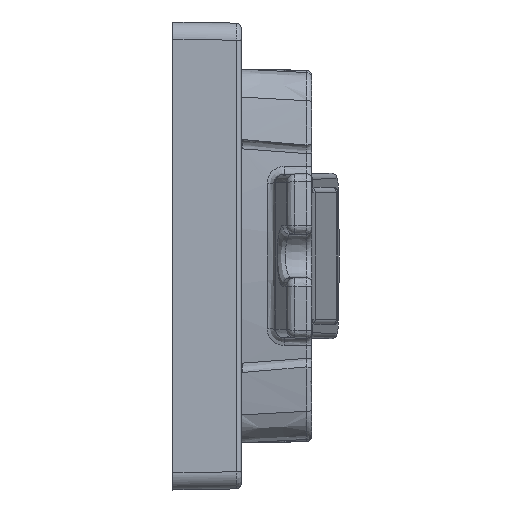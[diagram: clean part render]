
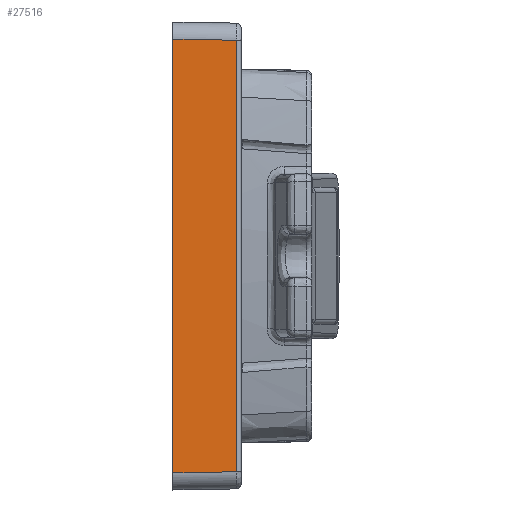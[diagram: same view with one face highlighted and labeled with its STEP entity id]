
A CAD part, left-side view. The second image highlights one B-rep face of the part: STEP entity #27516.
In plain terms, the highlighted planar face has unit normal (-1, -0.018, 0).
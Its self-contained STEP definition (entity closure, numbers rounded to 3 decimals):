
#2924=CARTESIAN_POINT('',(-80.,4.,-12.65));
#3050=CARTESIAN_POINT('',(-80.,4.,12.65));
#3058=DIRECTION('',(0.,0.,1.));
#3059=VECTOR('',#3058,25.3);
#3060=CARTESIAN_POINT('',(-80.,4.,-12.65));
#3061=LINE('',#3060,#3059);
#4831=CARTESIAN_POINT('',(-79.935,0.295,
-12.585));
#4843=DIRECTION('',(0.,0.,-1.));
#4844=VECTOR('',#4843,25.171);
#4845=CARTESIAN_POINT('',(-79.935,0.295,
12.585));
#4846=LINE('',#4845,#4844);
#4847=DIRECTION('',(0.017,-1.,0.017));
#4848=VECTOR('',#4847,3.706);
#4849=CARTESIAN_POINT('',(-80.,4.,-12.65));
#4850=LINE('',#4849,#4848);
#4851=DIRECTION('',(0.017,-1.,-0.017));
#4852=VECTOR('',#4851,3.706);
#4853=CARTESIAN_POINT('',(-80.,4.,12.65));
#4854=LINE('',#4853,#4852);
#21993=VERTEX_POINT('',#2924);
#21994=VERTEX_POINT('',#3050);
#22015=VERTEX_POINT('',#4831);
#22018=CARTESIAN_POINT('',(-79.935,0.295,
12.585));
#22019=VERTEX_POINT('',#22018);
#27503=CARTESIAN_POINT('',(-80.,4.,-15.25));
#27504=DIRECTION('',(-1.,-0.017,0.));
#27505=DIRECTION('',(0.,0.,1.));
#27506=AXIS2_PLACEMENT_3D('',#27503,#27504,#27505);
#27507=PLANE('',#27506);
#27509=ORIENTED_EDGE('',*,*,#27508,.T.);
#27510=ORIENTED_EDGE('',*,*,#27498,.F.);
#27511=ORIENTED_EDGE('',*,*,#23729,.T.);
#27513=ORIENTED_EDGE('',*,*,#27512,.T.);
#27514=EDGE_LOOP('',(#27509,#27510,#27511,#27513));
#27515=FACE_OUTER_BOUND('',#27514,.F.);
#23729=EDGE_CURVE('',#21993,#21994,#3061,.T.);
#27498=EDGE_CURVE('',#21993,#22015,#4850,.T.);
#27508=EDGE_CURVE('',#22019,#22015,#4846,.T.);
#27512=EDGE_CURVE('',#21994,#22019,#4854,.T.);
#27516=ADVANCED_FACE('',(#27515),#27507,.T.);
